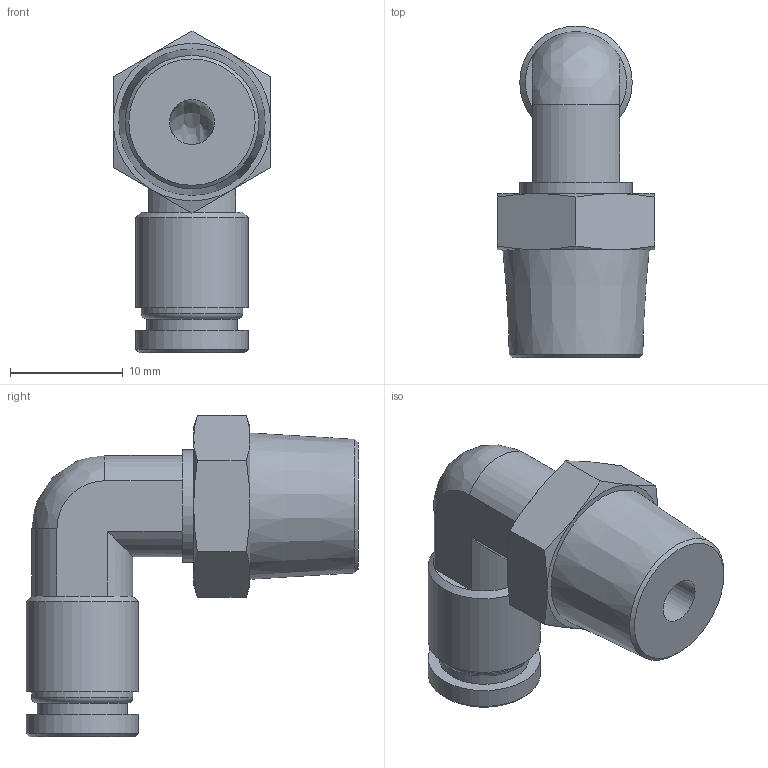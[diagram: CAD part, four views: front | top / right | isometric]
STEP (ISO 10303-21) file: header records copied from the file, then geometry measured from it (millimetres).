
FILE_DESCRIPTION(/* description */ (''),/* implementation_level */ '2;1');
FILE_NAME(/* name */ 'LXH21 0006 B2.stp',/* time_stamp */ '2026-05-01T12:38:35+02:00',/* author */ ('freju'),/* organization */ (''),/* preprocessor_version */ 'ST-DEVELOPER v20.1',/* originating_system */ 'Autodesk Inventor 2026',/* authorisation */ '');
FILE_SCHEMA (('AUTOMOTIVE_DESIGN { 1 0 10303 214 3 1 1 }'));
Length unit declared in the file: millimetre
Products named in the file (1): LXH21 0006 B2
Bounding box: 14 x 29.5 x 28.58 mm (x, y, z)
Volume: 3178.9 mm3; surface area: 2469.4 mm2
Topology: 1 solids, 1 shells, 49 faces, 107 edges, 64 vertices
Faces by surface type: plane 18, cone 16, cylinder 12, bspline 2, torus 1
Full cylindrical faces by diameter (mm): 4 x2, 6 x1, 8 x1, 9 x1, 10 x3
Entity records: 1381 total; most frequent: CARTESIAN_POINT 307, DIRECTION 228, ORIENTED_EDGE 210, EDGE_CURVE 105, AXIS2_PLACEMENT_3D 99, VERTEX_POINT 64, EDGE_LOOP 57, CIRCLE 50
